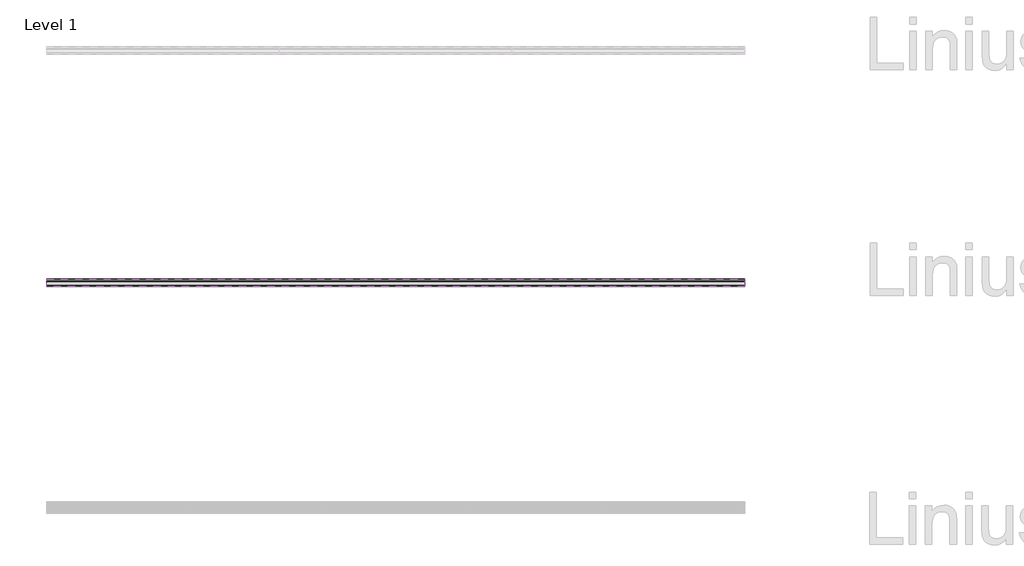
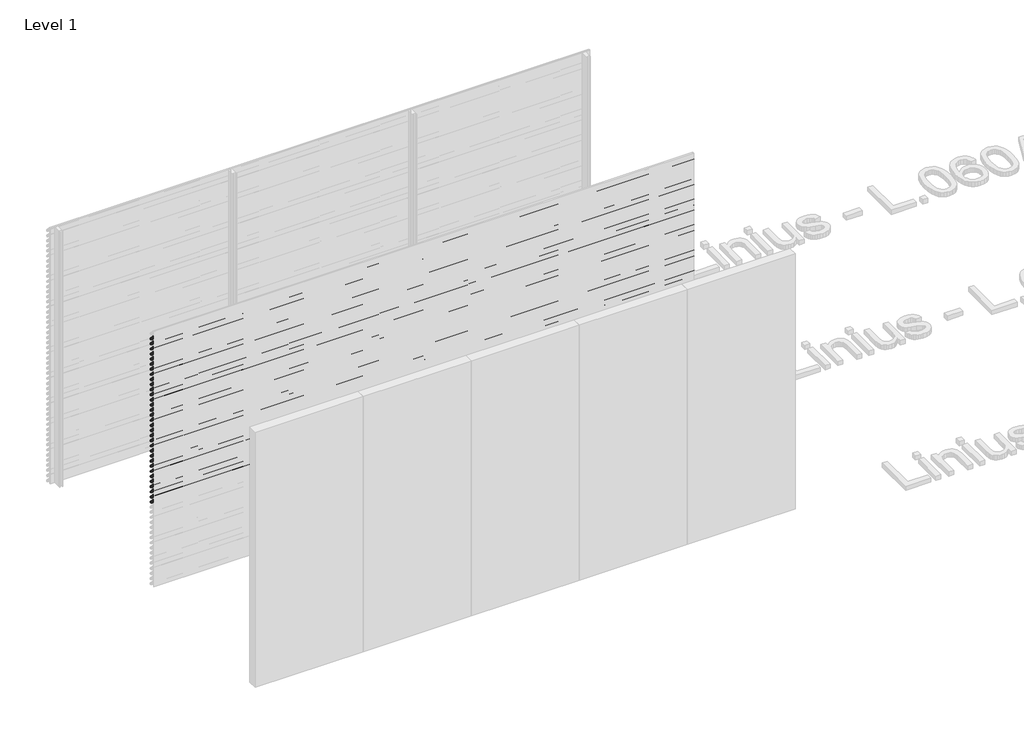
# One storey, part 108 of 153: 33 proxies.
"""IFC4 building model written with IfcOpenShell, lengths in millimetres."""

from ifc_helpers import new_model, si_unit, point, frame, frame_2d, origin, place, context, project, spatial, polyline, circle_curve, trimmed, segment, composite_curve, outline, extrude, element, save

model = new_model("IFC4")

# Units and contexts
model_context = context("Model", 3, world=origin())
ifc_project = project(units=[si_unit("LENGTHUNIT", "METRE", prefix="MILLI")], contexts=[model_context])

# Site, building, storey
site = spatial("IfcSite", under=ifc_project)
building = spatial("IfcBuilding", under=site)
storey = spatial("IfcBuildingStorey", under=building, Name="Level 1", Elevation=0.0)

# Proxies
placement = place(None, origin())
element("IfcBuildingElementProxy", 1, Name="Wall Sweeps", at=placement, inside=storey, context=model_context, shape_type="SweptSolid", body=[
    extrude(outline(composite_curve([segment(polyline([(49485.0540136, 2940.0), (49499.874191, 2938.7034025), (49549.0540136, 2885.0102749), (49549.0540136, 2873.6108187)]), True, "CONTINUOUS"), segment(trimmed(circle_curve(frame_2d((49545.7883652, 2873.897153)), 3.2781774), [point((49549.0540136, 2873.6108187))], [point((49546.4639442, 2870.6893438))], False, "CARTESIAN"), True, "CONTINUOUS"), segment(polyline([(49546.4639442, 2870.6893438), (49534.1895723, 2871.6282758), (49485.0540136, 2925.2730773), (49485.0540136, 2940.0)]), True, "CONTINUOUS")], self_intersect=False), holes=[composite_curve([segment(polyline([(49499.1621773, 2937.2599659), (49486.5540136, 2938.3630372), (49486.5540136, 2925.856213), (49534.8952036, 2873.0786805), (49546.3312542, 2872.2038762)]), True, "CONTINUOUS"), segment(trimmed(circle_curve(frame_2d((49545.7883652, 2873.897153)), 1.7781774), [point((49546.3312542, 2872.2038762))], [point((49547.5540136, 2873.6864389))], True, "CARTESIAN"), True, "CONTINUOUS"), segment(polyline([(49547.5540136, 2873.6864389), (49547.5540136, 2884.4271392), (49499.1621773, 2937.2599659)]), True, "CONTINUOUS")], self_intersect=False)]), frame((44966.6208097, 0.0, 0.0), z_axis=(1.0, 0.0, 0.0), x_axis=(0.0, 1.0, 0.0)), (0.0, 0.0, 1.0), 6000.0),
])
element("IfcBuildingElementProxy", 2, Name="Wall Sweeps", at=placement, inside=storey, context=model_context, shape_type="SweptSolid", body=[
    extrude(outline(composite_curve([segment(polyline([(49485.0540136, 2880.0), (49499.874191, 2878.7034025), (49549.0540136, 2825.0102749), (49549.0540136, 2813.6108187)]), True, "CONTINUOUS"), segment(trimmed(circle_curve(frame_2d((49545.7883652, 2813.897153)), 3.2781774), [point((49549.0540136, 2813.6108187))], [point((49546.4639442, 2810.6893438))], False, "CARTESIAN"), True, "CONTINUOUS"), segment(polyline([(49546.4639442, 2810.6893438), (49534.1895723, 2811.6282758), (49485.0540136, 2865.2730773), (49485.0540136, 2880.0)]), True, "CONTINUOUS")], self_intersect=False), holes=[composite_curve([segment(polyline([(49499.1621773, 2877.2599659), (49486.5540136, 2878.3630372), (49486.5540136, 2865.856213), (49534.8952036, 2813.0786805), (49546.3312542, 2812.2038762)]), True, "CONTINUOUS"), segment(trimmed(circle_curve(frame_2d((49545.7883652, 2813.897153)), 1.7781774), [point((49546.3312542, 2812.2038762))], [point((49547.5540136, 2813.6864389))], True, "CARTESIAN"), True, "CONTINUOUS"), segment(polyline([(49547.5540136, 2813.6864389), (49547.5540136, 2824.4271392), (49499.1621773, 2877.2599659)]), True, "CONTINUOUS")], self_intersect=False)]), frame((44966.6208097, 0.0, 0.0), z_axis=(1.0, 0.0, 0.0), x_axis=(0.0, 1.0, 0.0)), (0.0, 0.0, 1.0), 6000.0),
])
element("IfcBuildingElementProxy", 3, Name="Wall Sweeps", at=placement, inside=storey, context=model_context, shape_type="SweptSolid", body=[
    extrude(outline(composite_curve([segment(polyline([(49485.0540136, 2820.0), (49499.874191, 2818.7034025), (49549.0540136, 2765.0102749), (49549.0540136, 2753.6108187)]), True, "CONTINUOUS"), segment(trimmed(circle_curve(frame_2d((49545.7883652, 2753.897153)), 3.2781774), [point((49549.0540136, 2753.6108187))], [point((49546.4639442, 2750.6893438))], False, "CARTESIAN"), True, "CONTINUOUS"), segment(polyline([(49546.4639442, 2750.6893438), (49534.1895723, 2751.6282758), (49485.0540136, 2805.2730773), (49485.0540136, 2820.0)]), True, "CONTINUOUS")], self_intersect=False), holes=[composite_curve([segment(polyline([(49499.1621773, 2817.2599659), (49486.5540136, 2818.3630372), (49486.5540136, 2805.856213), (49534.8952036, 2753.0786805), (49546.3312542, 2752.2038762)]), True, "CONTINUOUS"), segment(trimmed(circle_curve(frame_2d((49545.7883652, 2753.897153)), 1.7781774), [point((49546.3312542, 2752.2038762))], [point((49547.5540136, 2753.6864389))], True, "CARTESIAN"), True, "CONTINUOUS"), segment(polyline([(49547.5540136, 2753.6864389), (49547.5540136, 2764.4271392), (49499.1621773, 2817.2599659)]), True, "CONTINUOUS")], self_intersect=False)]), frame((44966.6208097, 0.0, 0.0), z_axis=(1.0, 0.0, 0.0), x_axis=(0.0, 1.0, 0.0)), (0.0, 0.0, 1.0), 6000.0),
])
element("IfcBuildingElementProxy", 4, Name="Wall Sweeps", at=placement, inside=storey, context=model_context, shape_type="SweptSolid", body=[
    extrude(outline(composite_curve([segment(polyline([(49485.0540136, 2760.0), (49499.874191, 2758.7034025), (49549.0540136, 2705.0102749), (49549.0540136, 2693.6108187)]), True, "CONTINUOUS"), segment(trimmed(circle_curve(frame_2d((49545.7883652, 2693.897153)), 3.2781774), [point((49549.0540136, 2693.6108187))], [point((49546.4639442, 2690.6893438))], False, "CARTESIAN"), True, "CONTINUOUS"), segment(polyline([(49546.4639442, 2690.6893438), (49534.1895723, 2691.6282758), (49485.0540136, 2745.2730773), (49485.0540136, 2760.0)]), True, "CONTINUOUS")], self_intersect=False), holes=[composite_curve([segment(polyline([(49499.1621773, 2757.2599659), (49486.5540136, 2758.3630372), (49486.5540136, 2745.856213), (49534.8952036, 2693.0786805), (49546.3312542, 2692.2038762)]), True, "CONTINUOUS"), segment(trimmed(circle_curve(frame_2d((49545.7883652, 2693.897153)), 1.7781774), [point((49546.3312542, 2692.2038762))], [point((49547.5540136, 2693.6864389))], True, "CARTESIAN"), True, "CONTINUOUS"), segment(polyline([(49547.5540136, 2693.6864389), (49547.5540136, 2704.4271392), (49499.1621773, 2757.2599659)]), True, "CONTINUOUS")], self_intersect=False)]), frame((44966.6208097, 0.0, 0.0), z_axis=(1.0, 0.0, 0.0), x_axis=(0.0, 1.0, 0.0)), (0.0, 0.0, 1.0), 6000.0),
])
element("IfcBuildingElementProxy", 5, Name="Wall Sweeps", at=placement, inside=storey, context=model_context, shape_type="SweptSolid", body=[
    extrude(outline(composite_curve([segment(polyline([(49485.0540136, 2700.0), (49499.874191, 2698.7034025), (49549.0540136, 2645.0102749), (49549.0540136, 2633.6108187)]), True, "CONTINUOUS"), segment(trimmed(circle_curve(frame_2d((49545.7883652, 2633.897153)), 3.2781774), [point((49549.0540136, 2633.6108187))], [point((49546.4639442, 2630.6893438))], False, "CARTESIAN"), True, "CONTINUOUS"), segment(polyline([(49546.4639442, 2630.6893438), (49534.1895723, 2631.6282758), (49485.0540136, 2685.2730773), (49485.0540136, 2700.0)]), True, "CONTINUOUS")], self_intersect=False), holes=[composite_curve([segment(polyline([(49499.1621773, 2697.2599659), (49486.5540136, 2698.3630372), (49486.5540136, 2685.856213), (49534.8952036, 2633.0786805), (49546.3312542, 2632.2038762)]), True, "CONTINUOUS"), segment(trimmed(circle_curve(frame_2d((49545.7883652, 2633.897153)), 1.7781774), [point((49546.3312542, 2632.2038762))], [point((49547.5540136, 2633.6864389))], True, "CARTESIAN"), True, "CONTINUOUS"), segment(polyline([(49547.5540136, 2633.6864389), (49547.5540136, 2644.4271392), (49499.1621773, 2697.2599659)]), True, "CONTINUOUS")], self_intersect=False)]), frame((44966.6208097, 0.0, 0.0), z_axis=(1.0, 0.0, 0.0), x_axis=(0.0, 1.0, 0.0)), (0.0, 0.0, 1.0), 6000.0),
])
element("IfcBuildingElementProxy", 6, Name="Wall Sweeps", at=placement, inside=storey, context=model_context, shape_type="SweptSolid", body=[
    extrude(outline(composite_curve([segment(polyline([(49485.0540136, 2640.0), (49499.874191, 2638.7034025), (49549.0540136, 2585.0102749), (49549.0540136, 2573.6108187)]), True, "CONTINUOUS"), segment(trimmed(circle_curve(frame_2d((49545.7883652, 2573.897153)), 3.2781774), [point((49549.0540136, 2573.6108187))], [point((49546.4639442, 2570.6893438))], False, "CARTESIAN"), True, "CONTINUOUS"), segment(polyline([(49546.4639442, 2570.6893438), (49534.1895723, 2571.6282758), (49485.0540136, 2625.2730773), (49485.0540136, 2640.0)]), True, "CONTINUOUS")], self_intersect=False), holes=[composite_curve([segment(polyline([(49499.1621773, 2637.2599659), (49486.5540136, 2638.3630372), (49486.5540136, 2625.856213), (49534.8952036, 2573.0786805), (49546.3312542, 2572.2038762)]), True, "CONTINUOUS"), segment(trimmed(circle_curve(frame_2d((49545.7883652, 2573.897153)), 1.7781774), [point((49546.3312542, 2572.2038762))], [point((49547.5540136, 2573.6864389))], True, "CARTESIAN"), True, "CONTINUOUS"), segment(polyline([(49547.5540136, 2573.6864389), (49547.5540136, 2584.4271392), (49499.1621773, 2637.2599659)]), True, "CONTINUOUS")], self_intersect=False)]), frame((44966.6208097, 0.0, 0.0), z_axis=(1.0, 0.0, 0.0), x_axis=(0.0, 1.0, 0.0)), (0.0, 0.0, 1.0), 6000.0),
])
element("IfcBuildingElementProxy", 7, Name="Wall Sweeps", at=placement, inside=storey, context=model_context, shape_type="SweptSolid", body=[
    extrude(outline(composite_curve([segment(polyline([(49485.0540136, 2580.0), (49499.874191, 2578.7034025), (49549.0540136, 2525.0102749), (49549.0540136, 2513.6108187)]), True, "CONTINUOUS"), segment(trimmed(circle_curve(frame_2d((49545.7883652, 2513.897153)), 3.2781774), [point((49549.0540136, 2513.6108187))], [point((49546.4639442, 2510.6893438))], False, "CARTESIAN"), True, "CONTINUOUS"), segment(polyline([(49546.4639442, 2510.6893438), (49534.1895723, 2511.6282758), (49485.0540136, 2565.2730773), (49485.0540136, 2580.0)]), True, "CONTINUOUS")], self_intersect=False), holes=[composite_curve([segment(polyline([(49499.1621773, 2577.2599659), (49486.5540136, 2578.3630372), (49486.5540136, 2565.856213), (49534.8952036, 2513.0786805), (49546.3312542, 2512.2038762)]), True, "CONTINUOUS"), segment(trimmed(circle_curve(frame_2d((49545.7883652, 2513.897153)), 1.7781774), [point((49546.3312542, 2512.2038762))], [point((49547.5540136, 2513.6864389))], True, "CARTESIAN"), True, "CONTINUOUS"), segment(polyline([(49547.5540136, 2513.6864389), (49547.5540136, 2524.4271392), (49499.1621773, 2577.2599659)]), True, "CONTINUOUS")], self_intersect=False)]), frame((44966.6208097, 0.0, 0.0), z_axis=(1.0, 0.0, 0.0), x_axis=(0.0, 1.0, 0.0)), (0.0, 0.0, 1.0), 6000.0),
])
element("IfcBuildingElementProxy", 8, Name="Wall Sweeps", at=placement, inside=storey, context=model_context, shape_type="SweptSolid", body=[
    extrude(outline(composite_curve([segment(polyline([(49485.0540136, 2520.0), (49499.874191, 2518.7034025), (49549.0540136, 2465.0102749), (49549.0540136, 2453.6108187)]), True, "CONTINUOUS"), segment(trimmed(circle_curve(frame_2d((49545.7883652, 2453.897153)), 3.2781774), [point((49549.0540136, 2453.6108187))], [point((49546.4639442, 2450.6893438))], False, "CARTESIAN"), True, "CONTINUOUS"), segment(polyline([(49546.4639442, 2450.6893438), (49534.1895723, 2451.6282758), (49485.0540136, 2505.2730773), (49485.0540136, 2520.0)]), True, "CONTINUOUS")], self_intersect=False), holes=[composite_curve([segment(polyline([(49499.1621773, 2517.2599659), (49486.5540136, 2518.3630372), (49486.5540136, 2505.856213), (49534.8952036, 2453.0786805), (49546.3312542, 2452.2038762)]), True, "CONTINUOUS"), segment(trimmed(circle_curve(frame_2d((49545.7883652, 2453.897153)), 1.7781774), [point((49546.3312542, 2452.2038762))], [point((49547.5540136, 2453.6864389))], True, "CARTESIAN"), True, "CONTINUOUS"), segment(polyline([(49547.5540136, 2453.6864389), (49547.5540136, 2464.4271392), (49499.1621773, 2517.2599659)]), True, "CONTINUOUS")], self_intersect=False)]), frame((44966.6208097, 0.0, 0.0), z_axis=(1.0, 0.0, 0.0), x_axis=(0.0, 1.0, 0.0)), (0.0, 0.0, 1.0), 6000.0),
])
element("IfcBuildingElementProxy", 9, Name="Wall Sweeps", at=placement, inside=storey, context=model_context, shape_type="SweptSolid", body=[
    extrude(outline(composite_curve([segment(polyline([(49485.0540136, 2460.0), (49499.874191, 2458.7034025), (49549.0540136, 2405.0102749), (49549.0540136, 2393.6108187)]), True, "CONTINUOUS"), segment(trimmed(circle_curve(frame_2d((49545.7883652, 2393.897153)), 3.2781774), [point((49549.0540136, 2393.6108187))], [point((49546.4639442, 2390.6893438))], False, "CARTESIAN"), True, "CONTINUOUS"), segment(polyline([(49546.4639442, 2390.6893438), (49534.1895723, 2391.6282758), (49485.0540136, 2445.2730773), (49485.0540136, 2460.0)]), True, "CONTINUOUS")], self_intersect=False), holes=[composite_curve([segment(polyline([(49499.1621773, 2457.2599659), (49486.5540136, 2458.3630372), (49486.5540136, 2445.856213), (49534.8952036, 2393.0786805), (49546.3312542, 2392.2038762)]), True, "CONTINUOUS"), segment(trimmed(circle_curve(frame_2d((49545.7883652, 2393.897153)), 1.7781774), [point((49546.3312542, 2392.2038762))], [point((49547.5540136, 2393.6864389))], True, "CARTESIAN"), True, "CONTINUOUS"), segment(polyline([(49547.5540136, 2393.6864389), (49547.5540136, 2404.4271392), (49499.1621773, 2457.2599659)]), True, "CONTINUOUS")], self_intersect=False)]), frame((44966.6208097, 0.0, 0.0), z_axis=(1.0, 0.0, 0.0), x_axis=(0.0, 1.0, 0.0)), (0.0, 0.0, 1.0), 6000.0),
])
element("IfcBuildingElementProxy", 10, Name="Wall Sweeps", at=placement, inside=storey, context=model_context, shape_type="SweptSolid", body=[
    extrude(outline(composite_curve([segment(polyline([(49485.0540136, 2400.0), (49499.874191, 2398.7034025), (49549.0540136, 2345.0102749), (49549.0540136, 2333.6108187)]), True, "CONTINUOUS"), segment(trimmed(circle_curve(frame_2d((49545.7883652, 2333.897153)), 3.2781774), [point((49549.0540136, 2333.6108187))], [point((49546.4639442, 2330.6893438))], False, "CARTESIAN"), True, "CONTINUOUS"), segment(polyline([(49546.4639442, 2330.6893438), (49534.1895723, 2331.6282758), (49485.0540136, 2385.2730773), (49485.0540136, 2400.0)]), True, "CONTINUOUS")], self_intersect=False), holes=[composite_curve([segment(polyline([(49499.1621773, 2397.2599659), (49486.5540136, 2398.3630372), (49486.5540136, 2385.856213), (49534.8952036, 2333.0786805), (49546.3312542, 2332.2038762)]), True, "CONTINUOUS"), segment(trimmed(circle_curve(frame_2d((49545.7883652, 2333.897153)), 1.7781774), [point((49546.3312542, 2332.2038762))], [point((49547.5540136, 2333.6864389))], True, "CARTESIAN"), True, "CONTINUOUS"), segment(polyline([(49547.5540136, 2333.6864389), (49547.5540136, 2344.4271392), (49499.1621773, 2397.2599659)]), True, "CONTINUOUS")], self_intersect=False)]), frame((44966.6208097, 0.0, 0.0), z_axis=(1.0, 0.0, 0.0), x_axis=(0.0, 1.0, 0.0)), (0.0, 0.0, 1.0), 6000.0),
])
element("IfcBuildingElementProxy", 11, Name="Wall Sweeps", at=placement, inside=storey, context=model_context, shape_type="SweptSolid", body=[
    extrude(outline(composite_curve([segment(polyline([(49485.0540136, 2340.0), (49499.874191, 2338.7034025), (49549.0540136, 2285.0102749), (49549.0540136, 2273.6108187)]), True, "CONTINUOUS"), segment(trimmed(circle_curve(frame_2d((49545.7883652, 2273.897153)), 3.2781774), [point((49549.0540136, 2273.6108187))], [point((49546.4639442, 2270.6893438))], False, "CARTESIAN"), True, "CONTINUOUS"), segment(polyline([(49546.4639442, 2270.6893438), (49534.1895723, 2271.6282758), (49485.0540136, 2325.2730773), (49485.0540136, 2340.0)]), True, "CONTINUOUS")], self_intersect=False), holes=[composite_curve([segment(polyline([(49499.1621773, 2337.2599659), (49486.5540136, 2338.3630372), (49486.5540136, 2325.856213), (49534.8952036, 2273.0786805), (49546.3312542, 2272.2038762)]), True, "CONTINUOUS"), segment(trimmed(circle_curve(frame_2d((49545.7883652, 2273.897153)), 1.7781774), [point((49546.3312542, 2272.2038762))], [point((49547.5540136, 2273.6864389))], True, "CARTESIAN"), True, "CONTINUOUS"), segment(polyline([(49547.5540136, 2273.6864389), (49547.5540136, 2284.4271392), (49499.1621773, 2337.2599659)]), True, "CONTINUOUS")], self_intersect=False)]), frame((44966.6208097, 0.0, 0.0), z_axis=(1.0, 0.0, 0.0), x_axis=(0.0, 1.0, 0.0)), (0.0, 0.0, 1.0), 6000.0),
])
element("IfcBuildingElementProxy", 12, Name="Wall Sweeps", at=placement, inside=storey, context=model_context, shape_type="SweptSolid", body=[
    extrude(outline(composite_curve([segment(polyline([(49485.0540136, 2280.0), (49499.874191, 2278.7034025), (49549.0540136, 2225.0102749), (49549.0540136, 2213.6108187)]), True, "CONTINUOUS"), segment(trimmed(circle_curve(frame_2d((49545.7883652, 2213.897153)), 3.2781774), [point((49549.0540136, 2213.6108187))], [point((49546.4639442, 2210.6893438))], False, "CARTESIAN"), True, "CONTINUOUS"), segment(polyline([(49546.4639442, 2210.6893438), (49534.1895723, 2211.6282758), (49485.0540136, 2265.2730773), (49485.0540136, 2280.0)]), True, "CONTINUOUS")], self_intersect=False), holes=[composite_curve([segment(polyline([(49499.1621773, 2277.2599659), (49486.5540136, 2278.3630372), (49486.5540136, 2265.856213), (49534.8952036, 2213.0786805), (49546.3312542, 2212.2038762)]), True, "CONTINUOUS"), segment(trimmed(circle_curve(frame_2d((49545.7883652, 2213.897153)), 1.7781774), [point((49546.3312542, 2212.2038762))], [point((49547.5540136, 2213.6864389))], True, "CARTESIAN"), True, "CONTINUOUS"), segment(polyline([(49547.5540136, 2213.6864389), (49547.5540136, 2224.4271392), (49499.1621773, 2277.2599659)]), True, "CONTINUOUS")], self_intersect=False)]), frame((44966.6208097, 0.0, 0.0), z_axis=(1.0, 0.0, 0.0), x_axis=(0.0, 1.0, 0.0)), (0.0, 0.0, 1.0), 6000.0),
])
element("IfcBuildingElementProxy", 13, Name="Wall Sweeps", at=placement, inside=storey, context=model_context, shape_type="SweptSolid", body=[
    extrude(outline(composite_curve([segment(polyline([(49485.0540136, 2220.0), (49499.874191, 2218.7034025), (49549.0540136, 2165.0102749), (49549.0540136, 2153.6108187)]), True, "CONTINUOUS"), segment(trimmed(circle_curve(frame_2d((49545.7883652, 2153.897153)), 3.2781774), [point((49549.0540136, 2153.6108187))], [point((49546.4639442, 2150.6893438))], False, "CARTESIAN"), True, "CONTINUOUS"), segment(polyline([(49546.4639442, 2150.6893438), (49534.1895723, 2151.6282758), (49485.0540136, 2205.2730773), (49485.0540136, 2220.0)]), True, "CONTINUOUS")], self_intersect=False), holes=[composite_curve([segment(polyline([(49499.1621773, 2217.2599659), (49486.5540136, 2218.3630372), (49486.5540136, 2205.856213), (49534.8952036, 2153.0786805), (49546.3312542, 2152.2038762)]), True, "CONTINUOUS"), segment(trimmed(circle_curve(frame_2d((49545.7883652, 2153.897153)), 1.7781774), [point((49546.3312542, 2152.2038762))], [point((49547.5540136, 2153.6864389))], True, "CARTESIAN"), True, "CONTINUOUS"), segment(polyline([(49547.5540136, 2153.6864389), (49547.5540136, 2164.4271392), (49499.1621773, 2217.2599659)]), True, "CONTINUOUS")], self_intersect=False)]), frame((44966.6208097, 0.0, 0.0), z_axis=(1.0, 0.0, 0.0), x_axis=(0.0, 1.0, 0.0)), (0.0, 0.0, 1.0), 6000.0),
])
element("IfcBuildingElementProxy", 14, Name="Wall Sweeps", at=placement, inside=storey, context=model_context, shape_type="SweptSolid", body=[
    extrude(outline(composite_curve([segment(polyline([(49485.0540136, 2160.0), (49499.874191, 2158.7034025), (49549.0540136, 2105.0102749), (49549.0540136, 2093.6108187)]), True, "CONTINUOUS"), segment(trimmed(circle_curve(frame_2d((49545.7883652, 2093.897153)), 3.2781774), [point((49549.0540136, 2093.6108187))], [point((49546.4639442, 2090.6893438))], False, "CARTESIAN"), True, "CONTINUOUS"), segment(polyline([(49546.4639442, 2090.6893438), (49534.1895723, 2091.6282758), (49485.0540136, 2145.2730773), (49485.0540136, 2160.0)]), True, "CONTINUOUS")], self_intersect=False), holes=[composite_curve([segment(polyline([(49499.1621773, 2157.2599659), (49486.5540136, 2158.3630372), (49486.5540136, 2145.856213), (49534.8952036, 2093.0786805), (49546.3312542, 2092.2038762)]), True, "CONTINUOUS"), segment(trimmed(circle_curve(frame_2d((49545.7883652, 2093.897153)), 1.7781774), [point((49546.3312542, 2092.2038762))], [point((49547.5540136, 2093.6864389))], True, "CARTESIAN"), True, "CONTINUOUS"), segment(polyline([(49547.5540136, 2093.6864389), (49547.5540136, 2104.4271392), (49499.1621773, 2157.2599659)]), True, "CONTINUOUS")], self_intersect=False)]), frame((44966.6208097, 0.0, 0.0), z_axis=(1.0, 0.0, 0.0), x_axis=(0.0, 1.0, 0.0)), (0.0, 0.0, 1.0), 6000.0),
])
element("IfcBuildingElementProxy", 15, Name="Wall Sweeps", at=placement, inside=storey, context=model_context, shape_type="SweptSolid", body=[
    extrude(outline(composite_curve([segment(polyline([(49485.0540136, 2100.0), (49499.874191, 2098.7034025), (49549.0540136, 2045.0102749), (49549.0540136, 2033.6108187)]), True, "CONTINUOUS"), segment(trimmed(circle_curve(frame_2d((49545.7883652, 2033.897153)), 3.2781774), [point((49549.0540136, 2033.6108187))], [point((49546.4639442, 2030.6893438))], False, "CARTESIAN"), True, "CONTINUOUS"), segment(polyline([(49546.4639442, 2030.6893438), (49534.1895723, 2031.6282758), (49485.0540136, 2085.2730773), (49485.0540136, 2100.0)]), True, "CONTINUOUS")], self_intersect=False), holes=[composite_curve([segment(polyline([(49499.1621773, 2097.2599659), (49486.5540136, 2098.3630372), (49486.5540136, 2085.856213), (49534.8952036, 2033.0786805), (49546.3312542, 2032.2038762)]), True, "CONTINUOUS"), segment(trimmed(circle_curve(frame_2d((49545.7883652, 2033.897153)), 1.7781774), [point((49546.3312542, 2032.2038762))], [point((49547.5540136, 2033.6864389))], True, "CARTESIAN"), True, "CONTINUOUS"), segment(polyline([(49547.5540136, 2033.6864389), (49547.5540136, 2044.4271392), (49499.1621773, 2097.2599659)]), True, "CONTINUOUS")], self_intersect=False)]), frame((44966.6208097, 0.0, 0.0), z_axis=(1.0, 0.0, 0.0), x_axis=(0.0, 1.0, 0.0)), (0.0, 0.0, 1.0), 6000.0),
])
element("IfcBuildingElementProxy", 16, Name="Wall Sweeps", at=placement, inside=storey, context=model_context, shape_type="SweptSolid", body=[
    extrude(outline(composite_curve([segment(polyline([(49485.0540136, 2040.0), (49499.874191, 2038.7034025), (49549.0540136, 1985.0102749), (49549.0540136, 1973.6108187)]), True, "CONTINUOUS"), segment(trimmed(circle_curve(frame_2d((49545.7883652, 1973.897153)), 3.2781774), [point((49549.0540136, 1973.6108187))], [point((49546.4639442, 1970.6893438))], False, "CARTESIAN"), True, "CONTINUOUS"), segment(polyline([(49546.4639442, 1970.6893438), (49534.1895723, 1971.6282758), (49485.0540136, 2025.2730773), (49485.0540136, 2040.0)]), True, "CONTINUOUS")], self_intersect=False), holes=[composite_curve([segment(polyline([(49499.1621773, 2037.2599659), (49486.5540136, 2038.3630372), (49486.5540136, 2025.856213), (49534.8952036, 1973.0786805), (49546.3312542, 1972.2038762)]), True, "CONTINUOUS"), segment(trimmed(circle_curve(frame_2d((49545.7883652, 1973.897153)), 1.7781774), [point((49546.3312542, 1972.2038762))], [point((49547.5540136, 1973.6864389))], True, "CARTESIAN"), True, "CONTINUOUS"), segment(polyline([(49547.5540136, 1973.6864389), (49547.5540136, 1984.4271392), (49499.1621773, 2037.2599659)]), True, "CONTINUOUS")], self_intersect=False)]), frame((44966.6208097, 0.0, 0.0), z_axis=(1.0, 0.0, 0.0), x_axis=(0.0, 1.0, 0.0)), (0.0, 0.0, 1.0), 6000.0),
])
element("IfcBuildingElementProxy", 17, Name="Wall Sweeps", at=placement, inside=storey, context=model_context, shape_type="SweptSolid", body=[
    extrude(outline(composite_curve([segment(polyline([(49485.0540136, 1980.0), (49499.874191, 1978.7034025), (49549.0540136, 1925.0102749), (49549.0540136, 1913.6108187)]), True, "CONTINUOUS"), segment(trimmed(circle_curve(frame_2d((49545.7883652, 1913.897153)), 3.2781774), [point((49549.0540136, 1913.6108187))], [point((49546.4639442, 1910.6893438))], False, "CARTESIAN"), True, "CONTINUOUS"), segment(polyline([(49546.4639442, 1910.6893438), (49534.1895723, 1911.6282758), (49485.0540136, 1965.2730773), (49485.0540136, 1980.0)]), True, "CONTINUOUS")], self_intersect=False), holes=[composite_curve([segment(polyline([(49499.1621773, 1977.2599659), (49486.5540136, 1978.3630372), (49486.5540136, 1965.856213), (49534.8952036, 1913.0786805), (49546.3312542, 1912.2038762)]), True, "CONTINUOUS"), segment(trimmed(circle_curve(frame_2d((49545.7883652, 1913.897153)), 1.7781774), [point((49546.3312542, 1912.2038762))], [point((49547.5540136, 1913.6864389))], True, "CARTESIAN"), True, "CONTINUOUS"), segment(polyline([(49547.5540136, 1913.6864389), (49547.5540136, 1924.4271392), (49499.1621773, 1977.2599659)]), True, "CONTINUOUS")], self_intersect=False)]), frame((44966.6208097, 0.0, 0.0), z_axis=(1.0, 0.0, 0.0), x_axis=(0.0, 1.0, 0.0)), (0.0, 0.0, 1.0), 6000.0),
])
element("IfcBuildingElementProxy", 18, Name="Wall Sweeps", at=placement, inside=storey, context=model_context, shape_type="SweptSolid", body=[
    extrude(outline(composite_curve([segment(polyline([(49485.0540136, 1920.0), (49499.874191, 1918.7034025), (49549.0540136, 1865.0102749), (49549.0540136, 1853.6108187)]), True, "CONTINUOUS"), segment(trimmed(circle_curve(frame_2d((49545.7883652, 1853.897153)), 3.2781774), [point((49549.0540136, 1853.6108187))], [point((49546.4639442, 1850.6893438))], False, "CARTESIAN"), True, "CONTINUOUS"), segment(polyline([(49546.4639442, 1850.6893438), (49534.1895723, 1851.6282758), (49485.0540136, 1905.2730773), (49485.0540136, 1920.0)]), True, "CONTINUOUS")], self_intersect=False), holes=[composite_curve([segment(polyline([(49499.1621773, 1917.2599659), (49486.5540136, 1918.3630372), (49486.5540136, 1905.856213), (49534.8952036, 1853.0786805), (49546.3312542, 1852.2038762)]), True, "CONTINUOUS"), segment(trimmed(circle_curve(frame_2d((49545.7883652, 1853.897153)), 1.7781774), [point((49546.3312542, 1852.2038762))], [point((49547.5540136, 1853.6864389))], True, "CARTESIAN"), True, "CONTINUOUS"), segment(polyline([(49547.5540136, 1853.6864389), (49547.5540136, 1864.4271392), (49499.1621773, 1917.2599659)]), True, "CONTINUOUS")], self_intersect=False)]), frame((44966.6208097, 0.0, 0.0), z_axis=(1.0, 0.0, 0.0), x_axis=(0.0, 1.0, 0.0)), (0.0, 0.0, 1.0), 6000.0),
])
element("IfcBuildingElementProxy", 19, Name="Wall Sweeps", at=placement, inside=storey, context=model_context, shape_type="SweptSolid", body=[
    extrude(outline(composite_curve([segment(polyline([(49485.0540136, 1860.0), (49499.874191, 1858.7034025), (49549.0540136, 1805.0102749), (49549.0540136, 1793.6108187)]), True, "CONTINUOUS"), segment(trimmed(circle_curve(frame_2d((49545.7883652, 1793.897153)), 3.2781774), [point((49549.0540136, 1793.6108187))], [point((49546.4639442, 1790.6893438))], False, "CARTESIAN"), True, "CONTINUOUS"), segment(polyline([(49546.4639442, 1790.6893438), (49534.1895723, 1791.6282758), (49485.0540136, 1845.2730773), (49485.0540136, 1860.0)]), True, "CONTINUOUS")], self_intersect=False), holes=[composite_curve([segment(polyline([(49499.1621773, 1857.2599659), (49486.5540136, 1858.3630372), (49486.5540136, 1845.856213), (49534.8952036, 1793.0786805), (49546.3312542, 1792.2038762)]), True, "CONTINUOUS"), segment(trimmed(circle_curve(frame_2d((49545.7883652, 1793.897153)), 1.7781774), [point((49546.3312542, 1792.2038762))], [point((49547.5540136, 1793.6864389))], True, "CARTESIAN"), True, "CONTINUOUS"), segment(polyline([(49547.5540136, 1793.6864389), (49547.5540136, 1804.4271392), (49499.1621773, 1857.2599659)]), True, "CONTINUOUS")], self_intersect=False)]), frame((44966.6208097, 0.0, 0.0), z_axis=(1.0, 0.0, 0.0), x_axis=(0.0, 1.0, 0.0)), (0.0, 0.0, 1.0), 6000.0),
])
element("IfcBuildingElementProxy", 20, Name="Wall Sweeps", at=placement, inside=storey, context=model_context, shape_type="SweptSolid", body=[
    extrude(outline(composite_curve([segment(polyline([(49485.0540136, 1800.0), (49499.874191, 1798.7034025), (49549.0540136, 1745.0102749), (49549.0540136, 1733.6108187)]), True, "CONTINUOUS"), segment(trimmed(circle_curve(frame_2d((49545.7883652, 1733.897153)), 3.2781774), [point((49549.0540136, 1733.6108187))], [point((49546.4639442, 1730.6893438))], False, "CARTESIAN"), True, "CONTINUOUS"), segment(polyline([(49546.4639442, 1730.6893438), (49534.1895723, 1731.6282758), (49485.0540136, 1785.2730773), (49485.0540136, 1800.0)]), True, "CONTINUOUS")], self_intersect=False), holes=[composite_curve([segment(polyline([(49499.1621773, 1797.2599659), (49486.5540136, 1798.3630372), (49486.5540136, 1785.856213), (49534.8952036, 1733.0786805), (49546.3312542, 1732.2038762)]), True, "CONTINUOUS"), segment(trimmed(circle_curve(frame_2d((49545.7883652, 1733.897153)), 1.7781774), [point((49546.3312542, 1732.2038762))], [point((49547.5540136, 1733.6864389))], True, "CARTESIAN"), True, "CONTINUOUS"), segment(polyline([(49547.5540136, 1733.6864389), (49547.5540136, 1744.4271392), (49499.1621773, 1797.2599659)]), True, "CONTINUOUS")], self_intersect=False)]), frame((44966.6208097, 0.0, 0.0), z_axis=(1.0, 0.0, 0.0), x_axis=(0.0, 1.0, 0.0)), (0.0, 0.0, 1.0), 6000.0),
])
element("IfcBuildingElementProxy", 21, Name="Wall Sweeps", at=placement, inside=storey, context=model_context, shape_type="SweptSolid", body=[
    extrude(outline(composite_curve([segment(polyline([(49485.0540136, 1740.0), (49499.874191, 1738.7034025), (49549.0540136, 1685.0102749), (49549.0540136, 1673.6108187)]), True, "CONTINUOUS"), segment(trimmed(circle_curve(frame_2d((49545.7883652, 1673.897153)), 3.2781774), [point((49549.0540136, 1673.6108187))], [point((49546.4639442, 1670.6893438))], False, "CARTESIAN"), True, "CONTINUOUS"), segment(polyline([(49546.4639442, 1670.6893438), (49534.1895723, 1671.6282758), (49485.0540136, 1725.2730773), (49485.0540136, 1740.0)]), True, "CONTINUOUS")], self_intersect=False), holes=[composite_curve([segment(polyline([(49499.1621773, 1737.2599659), (49486.5540136, 1738.3630372), (49486.5540136, 1725.856213), (49534.8952036, 1673.0786805), (49546.3312542, 1672.2038762)]), True, "CONTINUOUS"), segment(trimmed(circle_curve(frame_2d((49545.7883652, 1673.897153)), 1.7781774), [point((49546.3312542, 1672.2038762))], [point((49547.5540136, 1673.6864389))], True, "CARTESIAN"), True, "CONTINUOUS"), segment(polyline([(49547.5540136, 1673.6864389), (49547.5540136, 1684.4271392), (49499.1621773, 1737.2599659)]), True, "CONTINUOUS")], self_intersect=False)]), frame((44966.6208097, 0.0, 0.0), z_axis=(1.0, 0.0, 0.0), x_axis=(0.0, 1.0, 0.0)), (0.0, 0.0, 1.0), 6000.0),
])
element("IfcBuildingElementProxy", 22, Name="Wall Sweeps", at=placement, inside=storey, context=model_context, shape_type="SweptSolid", body=[
    extrude(outline(composite_curve([segment(polyline([(49485.0540136, 1680.0), (49499.874191, 1678.7034025), (49549.0540136, 1625.0102749), (49549.0540136, 1613.6108187)]), True, "CONTINUOUS"), segment(trimmed(circle_curve(frame_2d((49545.7883652, 1613.897153)), 3.2781774), [point((49549.0540136, 1613.6108187))], [point((49546.4639442, 1610.6893438))], False, "CARTESIAN"), True, "CONTINUOUS"), segment(polyline([(49546.4639442, 1610.6893438), (49534.1895723, 1611.6282758), (49485.0540136, 1665.2730773), (49485.0540136, 1680.0)]), True, "CONTINUOUS")], self_intersect=False), holes=[composite_curve([segment(polyline([(49499.1621773, 1677.2599659), (49486.5540136, 1678.3630372), (49486.5540136, 1665.856213), (49534.8952036, 1613.0786805), (49546.3312542, 1612.2038762)]), True, "CONTINUOUS"), segment(trimmed(circle_curve(frame_2d((49545.7883652, 1613.897153)), 1.7781774), [point((49546.3312542, 1612.2038762))], [point((49547.5540136, 1613.6864389))], True, "CARTESIAN"), True, "CONTINUOUS"), segment(polyline([(49547.5540136, 1613.6864389), (49547.5540136, 1624.4271392), (49499.1621773, 1677.2599659)]), True, "CONTINUOUS")], self_intersect=False)]), frame((44966.6208097, 0.0, 0.0), z_axis=(1.0, 0.0, 0.0), x_axis=(0.0, 1.0, 0.0)), (0.0, 0.0, 1.0), 6000.0),
])
element("IfcBuildingElementProxy", 23, Name="Wall Sweeps", at=placement, inside=storey, context=model_context, shape_type="SweptSolid", body=[
    extrude(outline(composite_curve([segment(polyline([(49485.0540136, 1620.0), (49499.874191, 1618.7034025), (49549.0540136, 1565.0102749), (49549.0540136, 1553.6108187)]), True, "CONTINUOUS"), segment(trimmed(circle_curve(frame_2d((49545.7883652, 1553.897153)), 3.2781774), [point((49549.0540136, 1553.6108187))], [point((49546.4639442, 1550.6893438))], False, "CARTESIAN"), True, "CONTINUOUS"), segment(polyline([(49546.4639442, 1550.6893438), (49534.1895723, 1551.6282758), (49485.0540136, 1605.2730773), (49485.0540136, 1620.0)]), True, "CONTINUOUS")], self_intersect=False), holes=[composite_curve([segment(polyline([(49499.1621773, 1617.2599659), (49486.5540136, 1618.3630372), (49486.5540136, 1605.856213), (49534.8952036, 1553.0786805), (49546.3312542, 1552.2038762)]), True, "CONTINUOUS"), segment(trimmed(circle_curve(frame_2d((49545.7883652, 1553.897153)), 1.7781774), [point((49546.3312542, 1552.2038762))], [point((49547.5540136, 1553.6864389))], True, "CARTESIAN"), True, "CONTINUOUS"), segment(polyline([(49547.5540136, 1553.6864389), (49547.5540136, 1564.4271392), (49499.1621773, 1617.2599659)]), True, "CONTINUOUS")], self_intersect=False)]), frame((44966.6208097, 0.0, 0.0), z_axis=(1.0, 0.0, 0.0), x_axis=(0.0, 1.0, 0.0)), (0.0, 0.0, 1.0), 6000.0),
])
element("IfcBuildingElementProxy", 24, Name="Wall Sweeps", at=placement, inside=storey, context=model_context, shape_type="SweptSolid", body=[
    extrude(outline(composite_curve([segment(polyline([(49485.0540136, 1560.0), (49499.874191, 1558.7034025), (49549.0540136, 1505.0102749), (49549.0540136, 1493.6108187)]), True, "CONTINUOUS"), segment(trimmed(circle_curve(frame_2d((49545.7883652, 1493.897153)), 3.2781774), [point((49549.0540136, 1493.6108187))], [point((49546.4639442, 1490.6893438))], False, "CARTESIAN"), True, "CONTINUOUS"), segment(polyline([(49546.4639442, 1490.6893438), (49534.1895723, 1491.6282758), (49485.0540136, 1545.2730773), (49485.0540136, 1560.0)]), True, "CONTINUOUS")], self_intersect=False), holes=[composite_curve([segment(polyline([(49499.1621773, 1557.2599659), (49486.5540136, 1558.3630372), (49486.5540136, 1545.856213), (49534.8952036, 1493.0786805), (49546.3312542, 1492.2038762)]), True, "CONTINUOUS"), segment(trimmed(circle_curve(frame_2d((49545.7883652, 1493.897153)), 1.7781774), [point((49546.3312542, 1492.2038762))], [point((49547.5540136, 1493.6864389))], True, "CARTESIAN"), True, "CONTINUOUS"), segment(polyline([(49547.5540136, 1493.6864389), (49547.5540136, 1504.4271392), (49499.1621773, 1557.2599659)]), True, "CONTINUOUS")], self_intersect=False)]), frame((44966.6208097, 0.0, 0.0), z_axis=(1.0, 0.0, 0.0), x_axis=(0.0, 1.0, 0.0)), (0.0, 0.0, 1.0), 6000.0),
])
element("IfcBuildingElementProxy", 25, Name="Wall Sweeps", at=placement, inside=storey, context=model_context, shape_type="SweptSolid", body=[
    extrude(outline(composite_curve([segment(polyline([(49485.0540136, 1500.0), (49499.874191, 1498.7034025), (49549.0540136, 1445.0102749), (49549.0540136, 1433.6108187)]), True, "CONTINUOUS"), segment(trimmed(circle_curve(frame_2d((49545.7883652, 1433.897153)), 3.2781774), [point((49549.0540136, 1433.6108187))], [point((49546.4639442, 1430.6893438))], False, "CARTESIAN"), True, "CONTINUOUS"), segment(polyline([(49546.4639442, 1430.6893438), (49534.1895723, 1431.6282758), (49485.0540136, 1485.2730773), (49485.0540136, 1500.0)]), True, "CONTINUOUS")], self_intersect=False), holes=[composite_curve([segment(polyline([(49499.1621773, 1497.2599659), (49486.5540136, 1498.3630372), (49486.5540136, 1485.856213), (49534.8952036, 1433.0786805), (49546.3312542, 1432.2038762)]), True, "CONTINUOUS"), segment(trimmed(circle_curve(frame_2d((49545.7883652, 1433.897153)), 1.7781774), [point((49546.3312542, 1432.2038762))], [point((49547.5540136, 1433.6864389))], True, "CARTESIAN"), True, "CONTINUOUS"), segment(polyline([(49547.5540136, 1433.6864389), (49547.5540136, 1444.4271392), (49499.1621773, 1497.2599659)]), True, "CONTINUOUS")], self_intersect=False)]), frame((44966.6208097, 0.0, 0.0), z_axis=(1.0, 0.0, 0.0), x_axis=(0.0, 1.0, 0.0)), (0.0, 0.0, 1.0), 6000.0),
])
element("IfcBuildingElementProxy", 26, Name="Wall Sweeps", at=placement, inside=storey, context=model_context, shape_type="SweptSolid", body=[
    extrude(outline(composite_curve([segment(polyline([(49485.0540136, 1440.0), (49499.874191, 1438.7034025), (49549.0540136, 1385.0102749), (49549.0540136, 1373.6108187)]), True, "CONTINUOUS"), segment(trimmed(circle_curve(frame_2d((49545.7883652, 1373.897153)), 3.2781774), [point((49549.0540136, 1373.6108187))], [point((49546.4639442, 1370.6893438))], False, "CARTESIAN"), True, "CONTINUOUS"), segment(polyline([(49546.4639442, 1370.6893438), (49534.1895723, 1371.6282758), (49485.0540136, 1425.2730773), (49485.0540136, 1440.0)]), True, "CONTINUOUS")], self_intersect=False), holes=[composite_curve([segment(polyline([(49499.1621773, 1437.2599659), (49486.5540136, 1438.3630372), (49486.5540136, 1425.856213), (49534.8952036, 1373.0786805), (49546.3312542, 1372.2038762)]), True, "CONTINUOUS"), segment(trimmed(circle_curve(frame_2d((49545.7883652, 1373.897153)), 1.7781774), [point((49546.3312542, 1372.2038762))], [point((49547.5540136, 1373.6864389))], True, "CARTESIAN"), True, "CONTINUOUS"), segment(polyline([(49547.5540136, 1373.6864389), (49547.5540136, 1384.4271392), (49499.1621773, 1437.2599659)]), True, "CONTINUOUS")], self_intersect=False)]), frame((44966.6208097, 0.0, 0.0), z_axis=(1.0, 0.0, 0.0), x_axis=(0.0, 1.0, 0.0)), (0.0, 0.0, 1.0), 6000.0),
])
element("IfcBuildingElementProxy", 27, Name="Wall Sweeps", at=placement, inside=storey, context=model_context, shape_type="SweptSolid", body=[
    extrude(outline(composite_curve([segment(polyline([(49485.0540136, 1380.0), (49499.874191, 1378.7034025), (49549.0540136, 1325.0102749), (49549.0540136, 1313.6108187)]), True, "CONTINUOUS"), segment(trimmed(circle_curve(frame_2d((49545.7883652, 1313.897153)), 3.2781774), [point((49549.0540136, 1313.6108187))], [point((49546.4639442, 1310.6893438))], False, "CARTESIAN"), True, "CONTINUOUS"), segment(polyline([(49546.4639442, 1310.6893438), (49534.1895723, 1311.6282758), (49485.0540136, 1365.2730773), (49485.0540136, 1380.0)]), True, "CONTINUOUS")], self_intersect=False), holes=[composite_curve([segment(polyline([(49499.1621773, 1377.2599659), (49486.5540136, 1378.3630372), (49486.5540136, 1365.856213), (49534.8952036, 1313.0786805), (49546.3312542, 1312.2038762)]), True, "CONTINUOUS"), segment(trimmed(circle_curve(frame_2d((49545.7883652, 1313.897153)), 1.7781774), [point((49546.3312542, 1312.2038762))], [point((49547.5540136, 1313.6864389))], True, "CARTESIAN"), True, "CONTINUOUS"), segment(polyline([(49547.5540136, 1313.6864389), (49547.5540136, 1324.4271392), (49499.1621773, 1377.2599659)]), True, "CONTINUOUS")], self_intersect=False)]), frame((44966.6208097, 0.0, 0.0), z_axis=(1.0, 0.0, 0.0), x_axis=(0.0, 1.0, 0.0)), (0.0, 0.0, 1.0), 6000.0),
])
element("IfcBuildingElementProxy", 28, Name="Wall Sweeps", at=placement, inside=storey, context=model_context, shape_type="SweptSolid", body=[
    extrude(outline(composite_curve([segment(polyline([(49485.0540136, 1320.0), (49499.874191, 1318.7034025), (49549.0540136, 1265.0102749), (49549.0540136, 1253.6108187)]), True, "CONTINUOUS"), segment(trimmed(circle_curve(frame_2d((49545.7883652, 1253.897153)), 3.2781774), [point((49549.0540136, 1253.6108187))], [point((49546.4639442, 1250.6893438))], False, "CARTESIAN"), True, "CONTINUOUS"), segment(polyline([(49546.4639442, 1250.6893438), (49534.1895723, 1251.6282758), (49485.0540136, 1305.2730773), (49485.0540136, 1320.0)]), True, "CONTINUOUS")], self_intersect=False), holes=[composite_curve([segment(polyline([(49499.1621773, 1317.2599659), (49486.5540136, 1318.3630372), (49486.5540136, 1305.856213), (49534.8952036, 1253.0786805), (49546.3312542, 1252.2038762)]), True, "CONTINUOUS"), segment(trimmed(circle_curve(frame_2d((49545.7883652, 1253.897153)), 1.7781774), [point((49546.3312542, 1252.2038762))], [point((49547.5540136, 1253.6864389))], True, "CARTESIAN"), True, "CONTINUOUS"), segment(polyline([(49547.5540136, 1253.6864389), (49547.5540136, 1264.4271392), (49499.1621773, 1317.2599659)]), True, "CONTINUOUS")], self_intersect=False)]), frame((44966.6208097, 0.0, 0.0), z_axis=(1.0, 0.0, 0.0), x_axis=(0.0, 1.0, 0.0)), (0.0, 0.0, 1.0), 6000.0),
])
element("IfcBuildingElementProxy", 29, Name="Wall Sweeps", at=placement, inside=storey, context=model_context, shape_type="SweptSolid", body=[
    extrude(outline(composite_curve([segment(polyline([(49485.0540136, 1260.0), (49499.874191, 1258.7034025), (49549.0540136, 1205.0102749), (49549.0540136, 1193.6108187)]), True, "CONTINUOUS"), segment(trimmed(circle_curve(frame_2d((49545.7883652, 1193.897153)), 3.2781774), [point((49549.0540136, 1193.6108187))], [point((49546.4639442, 1190.6893438))], False, "CARTESIAN"), True, "CONTINUOUS"), segment(polyline([(49546.4639442, 1190.6893438), (49534.1895723, 1191.6282758), (49485.0540136, 1245.2730773), (49485.0540136, 1260.0)]), True, "CONTINUOUS")], self_intersect=False), holes=[composite_curve([segment(polyline([(49499.1621773, 1257.2599659), (49486.5540136, 1258.3630372), (49486.5540136, 1245.856213), (49534.8952036, 1193.0786805), (49546.3312542, 1192.2038762)]), True, "CONTINUOUS"), segment(trimmed(circle_curve(frame_2d((49545.7883652, 1193.897153)), 1.7781774), [point((49546.3312542, 1192.2038762))], [point((49547.5540136, 1193.6864389))], True, "CARTESIAN"), True, "CONTINUOUS"), segment(polyline([(49547.5540136, 1193.6864389), (49547.5540136, 1204.4271392), (49499.1621773, 1257.2599659)]), True, "CONTINUOUS")], self_intersect=False)]), frame((44966.6208097, 0.0, 0.0), z_axis=(1.0, 0.0, 0.0), x_axis=(0.0, 1.0, 0.0)), (0.0, 0.0, 1.0), 6000.0),
])
element("IfcBuildingElementProxy", 30, Name="Wall Sweeps", at=placement, inside=storey, context=model_context, shape_type="SweptSolid", body=[
    extrude(outline(composite_curve([segment(polyline([(49485.0540136, 1200.0), (49499.874191, 1198.7034025), (49549.0540136, 1145.0102749), (49549.0540136, 1133.6108187)]), True, "CONTINUOUS"), segment(trimmed(circle_curve(frame_2d((49545.7883652, 1133.897153)), 3.2781774), [point((49549.0540136, 1133.6108187))], [point((49546.4639442, 1130.6893438))], False, "CARTESIAN"), True, "CONTINUOUS"), segment(polyline([(49546.4639442, 1130.6893438), (49534.1895723, 1131.6282758), (49485.0540136, 1185.2730773), (49485.0540136, 1200.0)]), True, "CONTINUOUS")], self_intersect=False), holes=[composite_curve([segment(polyline([(49499.1621773, 1197.2599659), (49486.5540136, 1198.3630372), (49486.5540136, 1185.856213), (49534.8952036, 1133.0786805), (49546.3312542, 1132.2038762)]), True, "CONTINUOUS"), segment(trimmed(circle_curve(frame_2d((49545.7883652, 1133.897153)), 1.7781774), [point((49546.3312542, 1132.2038762))], [point((49547.5540136, 1133.6864389))], True, "CARTESIAN"), True, "CONTINUOUS"), segment(polyline([(49547.5540136, 1133.6864389), (49547.5540136, 1144.4271392), (49499.1621773, 1197.2599659)]), True, "CONTINUOUS")], self_intersect=False)]), frame((44966.6208097, 0.0, 0.0), z_axis=(1.0, 0.0, 0.0), x_axis=(0.0, 1.0, 0.0)), (0.0, 0.0, 1.0), 6000.0),
])
element("IfcBuildingElementProxy", 31, Name="Wall Sweeps", at=placement, inside=storey, context=model_context, shape_type="SweptSolid", body=[
    extrude(outline(composite_curve([segment(polyline([(49485.0540136, 1140.0), (49499.874191, 1138.7034025), (49549.0540136, 1085.0102749), (49549.0540136, 1073.6108187)]), True, "CONTINUOUS"), segment(trimmed(circle_curve(frame_2d((49545.7883652, 1073.897153)), 3.2781774), [point((49549.0540136, 1073.6108187))], [point((49546.4639442, 1070.6893438))], False, "CARTESIAN"), True, "CONTINUOUS"), segment(polyline([(49546.4639442, 1070.6893438), (49534.1895723, 1071.6282758), (49485.0540136, 1125.2730773), (49485.0540136, 1140.0)]), True, "CONTINUOUS")], self_intersect=False), holes=[composite_curve([segment(polyline([(49499.1621773, 1137.2599659), (49486.5540136, 1138.3630372), (49486.5540136, 1125.856213), (49534.8952036, 1073.0786805), (49546.3312542, 1072.2038762)]), True, "CONTINUOUS"), segment(trimmed(circle_curve(frame_2d((49545.7883652, 1073.897153)), 1.7781774), [point((49546.3312542, 1072.2038762))], [point((49547.5540136, 1073.6864389))], True, "CARTESIAN"), True, "CONTINUOUS"), segment(polyline([(49547.5540136, 1073.6864389), (49547.5540136, 1084.4271392), (49499.1621773, 1137.2599659)]), True, "CONTINUOUS")], self_intersect=False)]), frame((44966.6208097, 0.0, 0.0), z_axis=(1.0, 0.0, 0.0), x_axis=(0.0, 1.0, 0.0)), (0.0, 0.0, 1.0), 6000.0),
])
element("IfcBuildingElementProxy", 32, Name="Wall Sweeps", at=placement, inside=storey, context=model_context, shape_type="SweptSolid", body=[
    extrude(outline(composite_curve([segment(polyline([(49485.0540136, 1080.0), (49499.874191, 1078.7034025), (49549.0540136, 1025.0102749), (49549.0540136, 1013.6108187)]), True, "CONTINUOUS"), segment(trimmed(circle_curve(frame_2d((49545.7883652, 1013.897153)), 3.2781774), [point((49549.0540136, 1013.6108187))], [point((49546.4639442, 1010.6893438))], False, "CARTESIAN"), True, "CONTINUOUS"), segment(polyline([(49546.4639442, 1010.6893438), (49534.1895723, 1011.6282758), (49485.0540136, 1065.2730773), (49485.0540136, 1080.0)]), True, "CONTINUOUS")], self_intersect=False), holes=[composite_curve([segment(polyline([(49499.1621773, 1077.2599659), (49486.5540136, 1078.3630372), (49486.5540136, 1065.856213), (49534.8952036, 1013.0786805), (49546.3312542, 1012.2038762)]), True, "CONTINUOUS"), segment(trimmed(circle_curve(frame_2d((49545.7883652, 1013.897153)), 1.7781774), [point((49546.3312542, 1012.2038762))], [point((49547.5540136, 1013.6864389))], True, "CARTESIAN"), True, "CONTINUOUS"), segment(polyline([(49547.5540136, 1013.6864389), (49547.5540136, 1024.4271392), (49499.1621773, 1077.2599659)]), True, "CONTINUOUS")], self_intersect=False)]), frame((44966.6208097, 0.0, 0.0), z_axis=(1.0, 0.0, 0.0), x_axis=(0.0, 1.0, 0.0)), (0.0, 0.0, 1.0), 6000.0),
])
element("IfcBuildingElementProxy", 33, Name="Wall Sweeps", at=placement, inside=storey, context=model_context, shape_type="SweptSolid", body=[
    extrude(outline(composite_curve([segment(polyline([(49485.0540136, 1020.0), (49499.874191, 1018.7034025), (49549.0540136, 965.0102749), (49549.0540136, 953.6108187)]), True, "CONTINUOUS"), segment(trimmed(circle_curve(frame_2d((49545.7883652, 953.897153)), 3.2781774), [point((49549.0540136, 953.6108187))], [point((49546.4639442, 950.6893438))], False, "CARTESIAN"), True, "CONTINUOUS"), segment(polyline([(49546.4639442, 950.6893438), (49534.1895723, 951.6282758), (49485.0540136, 1005.2730773), (49485.0540136, 1020.0)]), True, "CONTINUOUS")], self_intersect=False), holes=[composite_curve([segment(polyline([(49499.1621773, 1017.2599659), (49486.5540136, 1018.3630372), (49486.5540136, 1005.856213), (49534.8952036, 953.0786805), (49546.3312542, 952.2038762)]), True, "CONTINUOUS"), segment(trimmed(circle_curve(frame_2d((49545.7883652, 953.897153)), 1.7781774), [point((49546.3312542, 952.2038762))], [point((49547.5540136, 953.6864389))], True, "CARTESIAN"), True, "CONTINUOUS"), segment(polyline([(49547.5540136, 953.6864389), (49547.5540136, 964.4271392), (49499.1621773, 1017.2599659)]), True, "CONTINUOUS")], self_intersect=False)]), frame((44966.6208097, 0.0, 0.0), z_axis=(1.0, 0.0, 0.0), x_axis=(0.0, 1.0, 0.0)), (0.0, 0.0, 1.0), 6000.0),
])

save(model, "model.ifc")
